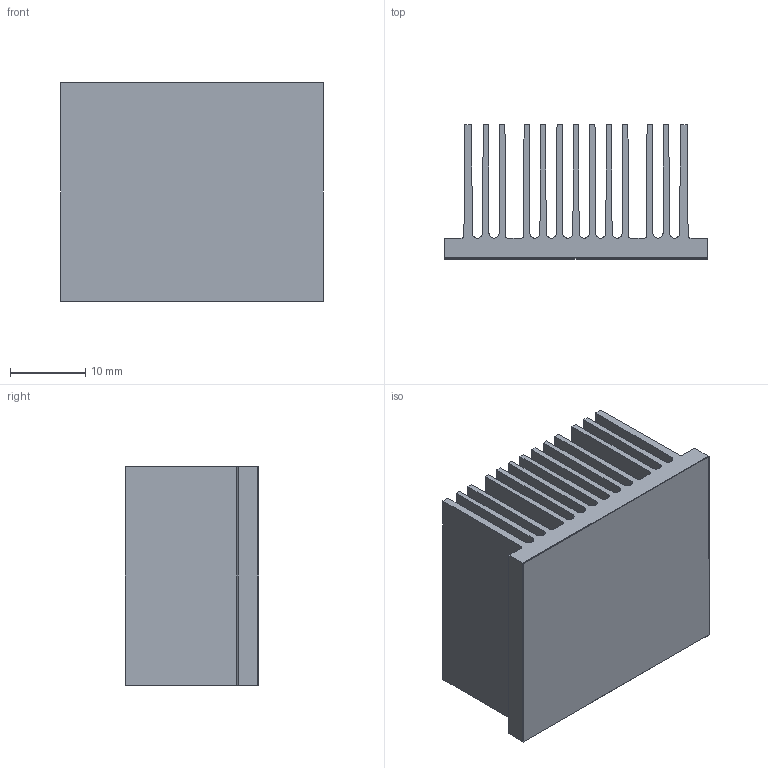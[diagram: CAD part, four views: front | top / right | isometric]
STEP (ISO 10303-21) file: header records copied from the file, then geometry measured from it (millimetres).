
FILE_DESCRIPTION (( 'STEP AP214' ), '1' );
FILE_NAME ('INH35001-18-2.6.STEP', '2023-02-17T22:47:01', ( '' ), ( '' ), 'SwSTEP 2.0', 'SolidWorks 2020', '' );
FILE_SCHEMA (( 'AUTOMOTIVE_DESIGN' ));
Length unit declared in the file: millimetre
Products named in the file (1): INH35001-18-2.6
Bounding box: 34.8 x 17.73 x 29 mm (x, y, z)
Volume: 7325.9 mm3; surface area: 15755.1 mm2
Topology: 2 solids, 2 shells, 90 faces, 258 edges, 172 vertices
Faces by surface type: plane 64, cylinder 26
Entity records: 3967 total; most frequent: CARTESIAN_POINT 521, ORIENTED_EDGE 516, DIRECTION 492, EDGE_CURVE 258, LINE 206, VECTOR 206, VERTEX_POINT 172, AXIS2_PLACEMENT_3D 143
